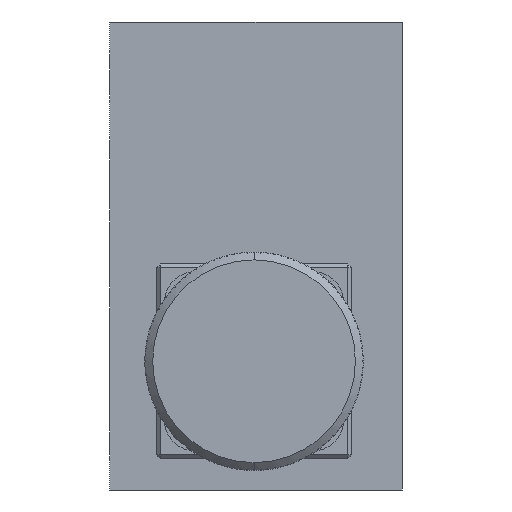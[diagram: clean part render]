
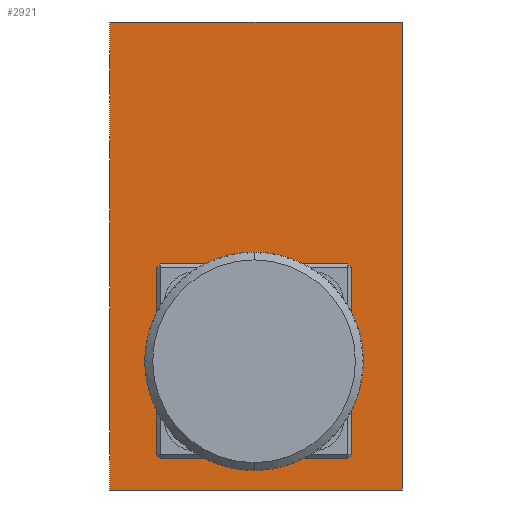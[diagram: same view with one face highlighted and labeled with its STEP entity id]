
A CAD part, left-side view. The second image highlights one B-rep face of the part: STEP entity #2921.
In plain terms, the highlighted planar face has unit normal (-1, 0, 0).
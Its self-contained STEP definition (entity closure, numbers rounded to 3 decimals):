
#328 = LINE ( 'NONE', #8116, #16684 ) ;
#543 = CARTESIAN_POINT ( 'NONE',  ( 0., -7.25, -6. ) ) ;
#705 = VERTEX_POINT ( 'NONE', #4530 ) ;
#1497 = CARTESIAN_POINT ( 'NONE',  ( 0., 7.75, -19.35 ) ) ;
#1527 = AXIS2_PLACEMENT_3D ( 'NONE', #3452, #18481, #5564 ) ;
#1685 = CARTESIAN_POINT ( 'NONE',  ( 0., 7.75, -21. ) ) ;
#1996 = VECTOR ( 'NONE', #10411, 1000. ) ;
#2126 = CARTESIAN_POINT ( 'NONE',  ( 0., -18.75, 30. ) ) ;
#2298 = CARTESIAN_POINT ( 'NONE',  ( 0., -18.75, -30. ) ) ;
#2638 = DIRECTION ( 'NONE',  ( 0., 0., 1. ) ) ;
#2650 = DIRECTION ( 'NONE',  ( 0., 0., 1. ) ) ;
#2921 = ADVANCED_FACE ( 'NONE', ( #20845, #4338, #26517, #3695 ), #9680, .T. ) ;
#2997 = EDGE_CURVE ( 'NONE', #15476, #15574, #23184, .T. ) ;
#3452 = CARTESIAN_POINT ( 'NONE',  ( 0., 0.25, -13.5 ) ) ;
#3695 = FACE_BOUND ( 'NONE', #20559, .T. ) ;
#3783 = DIRECTION ( 'NONE',  ( 0., 0., 1. ) ) ;
#3974 = EDGE_LOOP ( 'NONE', ( #20060, #13242 ) ) ;
#4062 = EDGE_LOOP ( 'NONE', ( #11077, #14136 ) ) ;
#4078 = CARTESIAN_POINT ( 'NONE',  ( 0., 7.75, -21. ) ) ;
#4338 = FACE_BOUND ( 'NONE', #4062, .T. ) ;
#4530 = CARTESIAN_POINT ( 'NONE',  ( 0., 18.75, 30. ) ) ;
#4533 = CIRCLE ( 'NONE', #7127, 1.65 ) ;
#4736 = CARTESIAN_POINT ( 'NONE',  ( 0., 18.75, 30. ) ) ;
#4841 = CARTESIAN_POINT ( 'NONE',  ( 0., 18.75, -30. ) ) ;
#5564 = DIRECTION ( 'NONE',  ( 0., 0., 1. ) ) ;
#6169 = EDGE_LOOP ( 'NONE', ( #23492, #22854, #16833, #27288 ) ) ;
#6176 = DIRECTION ( 'NONE',  ( 0., 0., 1. ) ) ;
#6330 = EDGE_CURVE ( 'NONE', #8866, #25469, #328, .T. ) ;
#6413 = EDGE_CURVE ( 'NONE', #15574, #15476, #4533, .T. ) ;
#7127 = AXIS2_PLACEMENT_3D ( 'NONE', #4078, #19118, #6176 ) ;
#7334 = CARTESIAN_POINT ( 'NONE',  ( 0., -7.25, -4.35 ) ) ;
#7428 = EDGE_CURVE ( 'NONE', #8220, #8866, #15153, .T. ) ;
#7550 = CIRCLE ( 'NONE', #24305, 1.65 ) ;
#7716 = CARTESIAN_POINT ( 'NONE',  ( 0., 18.75, -30. ) ) ;
#8116 = CARTESIAN_POINT ( 'NONE',  ( 0., -18.75, -30. ) ) ;
#8220 = VERTEX_POINT ( 'NONE', #25370 ) ;
#8333 = CIRCLE ( 'NONE', #24945, 1.65 ) ;
#8835 = CARTESIAN_POINT ( 'NONE',  ( 0., -7.25, -7.65 ) ) ;
#8866 = VERTEX_POINT ( 'NONE', #2298 ) ;
#8936 = EDGE_CURVE ( 'NONE', #25469, #705, #21867, .T. ) ;
#9022 = EDGE_CURVE ( 'NONE', #16132, #24706, #19851, .T. ) ;
#9498 = CARTESIAN_POINT ( 'NONE',  ( 0., 0.25, -9.25 ) ) ;
#9680 = PLANE ( 'NONE',  #20434 ) ;
#9857 = DIRECTION ( 'NONE',  ( 0., 0., 1. ) ) ;
#10411 = DIRECTION ( 'NONE',  ( 0., -1., 0. ) ) ;
#10652 = DIRECTION ( 'NONE',  ( -1., 0., 0. ) ) ;
#11077 = ORIENTED_EDGE ( 'NONE', *, *, #2997, .F. ) ;
#11192 = ORIENTED_EDGE ( 'NONE', *, *, #9022, .F. ) ;
#11631 = DIRECTION ( 'NONE',  ( -1., 0., 0. ) ) ;
#12453 = ORIENTED_EDGE ( 'NONE', *, *, #25665, .F. ) ;
#13159 = DIRECTION ( 'NONE',  ( 0., 0., -1. ) ) ;
#13169 = CIRCLE ( 'NONE', #1527, 4.25 ) ;
#13242 = ORIENTED_EDGE ( 'NONE', *, *, #27503, .F. ) ;
#13271 = EDGE_CURVE ( 'NONE', #705, #8220, #19074, .T. ) ;
#14136 = ORIENTED_EDGE ( 'NONE', *, *, #6413, .F. ) ;
#14703 = CARTESIAN_POINT ( 'NONE',  ( 0., 7.75, -22.65 ) ) ;
#15153 = LINE ( 'NONE', #26062, #22938 ) ;
#15379 = AXIS2_PLACEMENT_3D ( 'NONE', #24581, #11631, #26714 ) ;
#15423 = DIRECTION ( 'NONE',  ( -1., 0., 0. ) ) ;
#15476 = VERTEX_POINT ( 'NONE', #1497 ) ;
#15574 = VERTEX_POINT ( 'NONE', #14703 ) ;
#16132 = VERTEX_POINT ( 'NONE', #16878 ) ;
#16158 = VECTOR ( 'NONE', #2650, 1000. ) ;
#16309 = VERTEX_POINT ( 'NONE', #8835 ) ;
#16313 = EDGE_CURVE ( 'NONE', #22477, #16309, #8333, .T. ) ;
#16651 = DIRECTION ( 'NONE',  ( -1., 0., 0. ) ) ;
#16684 = VECTOR ( 'NONE', #23259, 1000. ) ;
#16833 = ORIENTED_EDGE ( 'NONE', *, *, #13271, .F. ) ;
#16878 = CARTESIAN_POINT ( 'NONE',  ( 0., 0.25, -17.75 ) ) ;
#18481 = DIRECTION ( 'NONE',  ( -1., 0., 0. ) ) ;
#19074 = LINE ( 'NONE', #2126, #1996 ) ;
#19118 = DIRECTION ( 'NONE',  ( -1., 0., 0. ) ) ;
#19851 = CIRCLE ( 'NONE', #15379, 4.25 ) ;
#20060 = ORIENTED_EDGE ( 'NONE', *, *, #16313, .F. ) ;
#20434 = AXIS2_PLACEMENT_3D ( 'NONE', #7716, #22859, #9857 ) ;
#20559 = EDGE_LOOP ( 'NONE', ( #12453, #11192 ) ) ;
#20845 = FACE_OUTER_BOUND ( 'NONE', #6169, .T. ) ;
#21867 = LINE ( 'NONE', #4736, #16158 ) ;
#21871 = AXIS2_PLACEMENT_3D ( 'NONE', #1685, #16651, #3783 ) ;
#22477 = VERTEX_POINT ( 'NONE', #7334 ) ;
#22854 = ORIENTED_EDGE ( 'NONE', *, *, #7428, .F. ) ;
#22859 = DIRECTION ( 'NONE',  ( -1., 0., 0. ) ) ;
#22938 = VECTOR ( 'NONE', #13159, 1000. ) ;
#23184 = CIRCLE ( 'NONE', #21871, 1.65 ) ;
#23259 = DIRECTION ( 'NONE',  ( 0., 1., 0. ) ) ;
#23492 = ORIENTED_EDGE ( 'NONE', *, *, #6330, .F. ) ;
#23625 = CARTESIAN_POINT ( 'NONE',  ( 0., -7.25, -6. ) ) ;
#24305 = AXIS2_PLACEMENT_3D ( 'NONE', #23625, #10652, #25765 ) ;
#24581 = CARTESIAN_POINT ( 'NONE',  ( 0., 0.25, -13.5 ) ) ;
#24706 = VERTEX_POINT ( 'NONE', #9498 ) ;
#24945 = AXIS2_PLACEMENT_3D ( 'NONE', #543, #15423, #2638 ) ;
#25370 = CARTESIAN_POINT ( 'NONE',  ( 0., -18.75, 30. ) ) ;
#25469 = VERTEX_POINT ( 'NONE', #4841 ) ;
#25665 = EDGE_CURVE ( 'NONE', #24706, #16132, #13169, .T. ) ;
#25765 = DIRECTION ( 'NONE',  ( 0., 0., 1. ) ) ;
#26062 = CARTESIAN_POINT ( 'NONE',  ( 0., -18.75, 30. ) ) ;
#26517 = FACE_BOUND ( 'NONE', #3974, .T. ) ;
#26714 = DIRECTION ( 'NONE',  ( 0., 0., 1. ) ) ;
#27288 = ORIENTED_EDGE ( 'NONE', *, *, #8936, .F. ) ;
#27503 = EDGE_CURVE ( 'NONE', #16309, #22477, #7550, .T. ) ;
